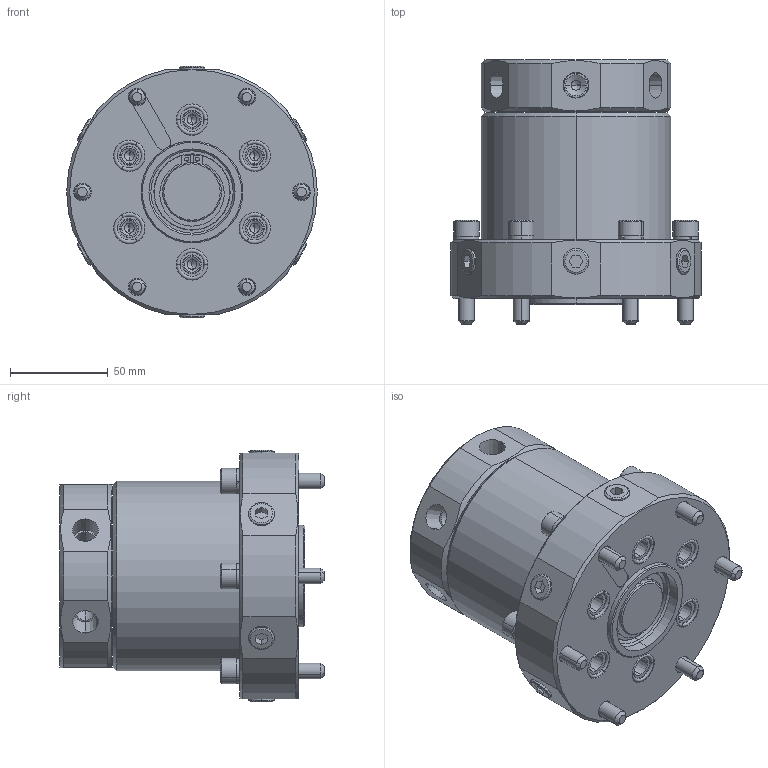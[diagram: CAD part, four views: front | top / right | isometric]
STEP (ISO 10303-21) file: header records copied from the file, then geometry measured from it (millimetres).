
FILE_DESCRIPTION (( 'STEP AP203' ), '1' );
FILE_NAME ('JRC0600-S-A.STEP', '2011-03-14T02:42:55', ( ' ' ), ( '' ), 'SwSTEP 2.0', 'SolidWorks 2010', '' );
FILE_SCHEMA (( 'CONFIG_CONTROL_DESIGN' ));
Length unit declared in the file: millimetre
Products named in the file (9): JRC06_08トメワ受け; STW-30; JRC0600-S-A; JRC0600ハウジング; JRC0600シャフト; 曽宍兽然轤M8; 6妏寠晅无倌_M8_45; 1BP12（ｶﾞｽｹｯﾄ）; Rネジ1_4
Assembly tree (28 placements, depth 2):
  JRC0600-S-A
    1BP12（ｶﾞｽｹｯﾄ）  x6
    JRC0600ハウジング
    Rネジ1_4  x6
    STW-30
    曽宍兽然轤M8  x6
    JRC06_08トメワ受け
    6妏寠晅无倌_M8_45  x6
    JRC0600シャフト
Bounding box: 128 x 135 x 128.6 mm (x, y, z)
Volume: 1019176.6 mm3; surface area: 140351.8 mm2
Topology: 28 solids, 28 shells, 747 faces, 1607 edges, 914 vertices
Faces by surface type: cone 262, cylinder 230, plane 227, torus 28
Entity records: 14110 total; most frequent: CARTESIAN_POINT 2558, DIRECTION 2301, ORIENTED_EDGE 1958, EDGE_CURVE 979, AXIS2_PLACEMENT_3D 952, VERTEX_POINT 589, EDGE_LOOP 522, CIRCLE 474
